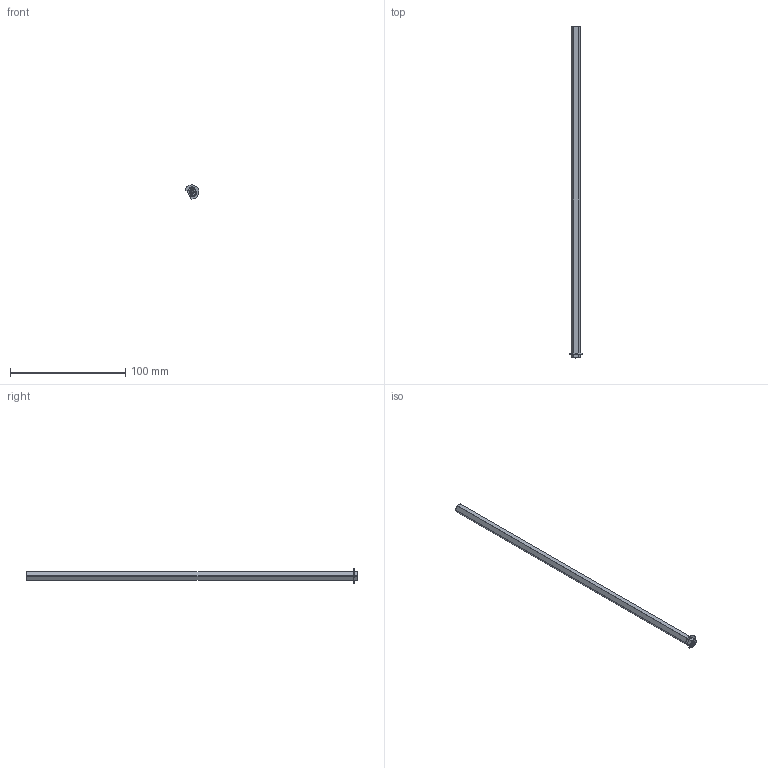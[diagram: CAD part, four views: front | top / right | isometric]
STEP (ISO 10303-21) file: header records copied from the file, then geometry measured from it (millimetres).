
FILE_DESCRIPTION (( 'STEP AP203' ), '1' );
FILE_NAME ('2106-4008-2880 assembly.STEP', '2024-03-07T19:49:57', ( '' ), ( '' ), 'SwSTEP 2.0', 'SolidWorks 2016', '' );
FILE_SCHEMA (( 'CONFIG_CONTROL_DESIGN' ));
Length unit declared in the file: millimetre
Products named in the file (3): 2106-4008-2880 assembly; 2106-4008-2880; 2106 Series 8mm REX e-clip
Assembly tree (2 placements, depth 2):
  2106-4008-2880 assembly
    2106-4008-2880
    2106 Series 8mm REX e-clip
Bounding box: 12.07 x 288 x 12.28 mm (x, y, z)
Volume: 11958.7 mm3; surface area: 7670.2 mm2
Topology: 2 solids, 2 shells, 220 faces, 624 edges, 408 vertices
Faces by surface type: cylinder 168, plane 26, cone 22, bspline 4
Entity records: 13217 total; most frequent: CARTESIAN_POINT 8047, ORIENTED_EDGE 1240, DIRECTION 846, EDGE_CURVE 620, VERTEX_POINT 408, AXIS2_PLACEMENT_3D 315, EDGE_LOOP 224, ADVANCED_FACE 220
